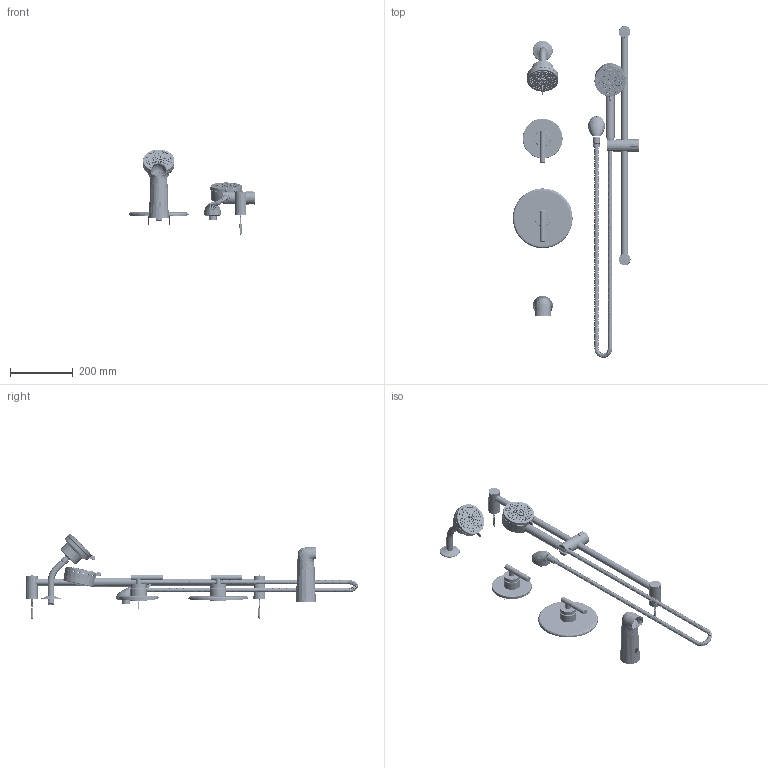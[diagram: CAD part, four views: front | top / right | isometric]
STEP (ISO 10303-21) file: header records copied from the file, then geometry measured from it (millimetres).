
FILE_DESCRIPTION (( 'STEP AP214' ), '1' );
FILE_NAME ('3596BTRM.STEP', '2025-01-15T07:32:38', ( '' ), ( '' ), 'SwSTEP 2.0', 'SolidWorks 2023', '' );
FILE_SCHEMA (( 'AUTOMOTIVE_DESIGN' ));
Products named in the file (1): 3596BTRM
Bounding box: 402.68 x 1057.64 x 270.97 mm (x, y, z)
Surface area: 606252.2 mm2 (no closed solid volume)
Topology: 0 solids, 354 shells, 2506 faces, 9050 edges, 6783 vertices
Faces by surface type: cylinder 808, plane 563, bspline 559, cone 363, torus 165, sphere 48
Entity records: 644392 total; most frequent: CARTESIAN_POINT 577395, ORIENTED_EDGE 13548, DIRECTION 10970, EDGE_CURVE 9042, VERTEX_POINT 6780, AXIS2_PLACEMENT_3D 4204, B_SPLINE_CURVE_WITH_KNOTS 4015, EDGE_LOOP 3005
